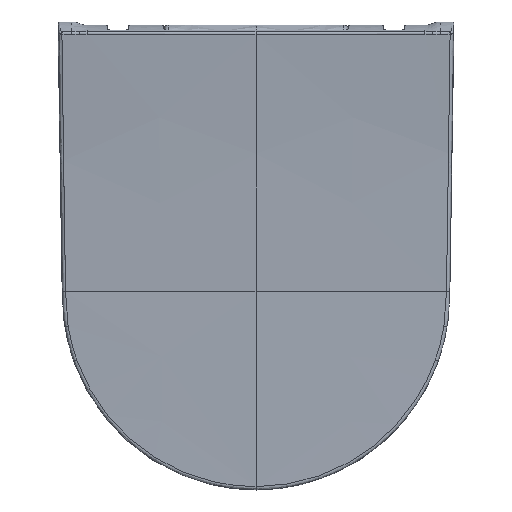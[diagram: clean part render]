
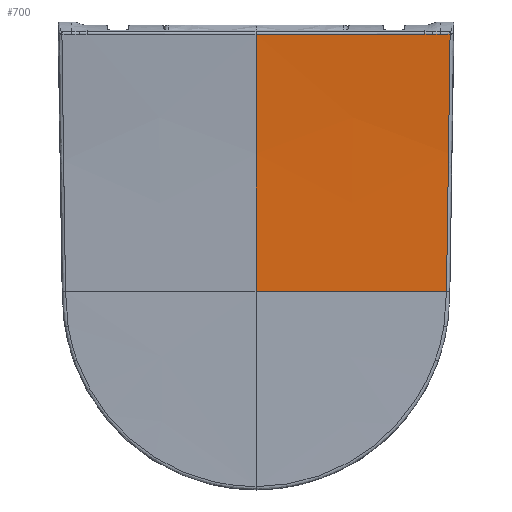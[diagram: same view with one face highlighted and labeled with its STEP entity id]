
A CAD part, top view. The second image highlights one B-rep face of the part: STEP entity #700.
In plain terms, the highlighted free-form (B-spline) face has degree [3, 2] with [4, 3] control points.
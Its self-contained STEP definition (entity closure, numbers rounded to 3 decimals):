
#700=ADVANCED_FACE('',(#1363),#10756,.T.);
#1363=FACE_OUTER_BOUND('',#2029,.T.);
#2029=EDGE_LOOP('',(#5251,#5252,#5253,#5254,#5255,#5256,#5257));
#5251=ORIENTED_EDGE('',*,*,#7148,.T.);
#5252=ORIENTED_EDGE('',*,*,#7170,.T.);
#5253=ORIENTED_EDGE('',*,*,#7141,.T.);
#5254=ORIENTED_EDGE('',*,*,#7143,.T.);
#5255=ORIENTED_EDGE('',*,*,#7145,.T.);
#5256=ORIENTED_EDGE('',*,*,#7151,.T.);
#5257=ORIENTED_EDGE('',*,*,#7169,.F.);
#7141=EDGE_CURVE('',#10059,#10082,#9016,.T.);
#7143=EDGE_CURVE('',#10082,#10083,#9018,.T.);
#7145=EDGE_CURVE('',#10083,#10084,#9020,.T.);
#7148=EDGE_CURVE('',#10085,#10058,#9023,.T.);
#7151=EDGE_CURVE('',#10084,#10087,#9026,.T.);
#7169=EDGE_CURVE('',#10085,#10087,#9044,.T.);
#7170=EDGE_CURVE('',#10058,#10059,#9045,.T.);
#9016=B_SPLINE_CURVE_WITH_KNOTS('',3,(#60881,#60882,#60883,#60884),
 .UNSPECIFIED.,.F.,.F.,(4,4),(0.,1.),.UNSPECIFIED.);
#9018=B_SPLINE_CURVE_WITH_KNOTS('',3,(#60891,#60892,#60893,#60894,#60895,
#60896,#60897,#60898,#60899,#60900),.UNSPECIFIED.,.F.,.F.,(4,2,2,2,4),(0.,
0.25,0.5,0.75,1.),.UNSPECIFIED.);
#9020=B_SPLINE_CURVE_WITH_KNOTS('',3,(#60907,#60908,#60909,#60910,#60911,
#60912),.UNSPECIFIED.,.F.,.F.,(4,2,4),(0.,0.5,1.),
 .UNSPECIFIED.);
#9023=B_SPLINE_CURVE_WITH_KNOTS('',2,(#60923,#60924,#60925),
 .UNSPECIFIED.,.F.,.F.,(3,3),(0.,0.985),.UNSPECIFIED.);
#9026=B_SPLINE_CURVE_WITH_KNOTS('',2,(#60976,#60977,#60978),
 .UNSPECIFIED.,.F.,.F.,(3,3),(0.,1.),.UNSPECIFIED.);
#9044=B_SPLINE_CURVE_WITH_KNOTS('',3,(#61230,#61231,#61232,#61233),
 .UNSPECIFIED.,.F.,.F.,(4,4),(-1.057,-0.055),
 .UNSPECIFIED.);
#9045=B_SPLINE_CURVE_WITH_KNOTS('',3,(#61234,#61235,#61236,#61237,#61238,
#61239),.UNSPECIFIED.,.F.,.F.,(4,2,4),(0.,0.5,1.),
 .UNSPECIFIED.);
#10058=VERTEX_POINT('',#51307);
#10059=VERTEX_POINT('',#51308);
#10082=VERTEX_POINT('',#51331);
#10083=VERTEX_POINT('',#51332);
#10084=VERTEX_POINT('',#51333);
#10085=VERTEX_POINT('',#51334);
#10087=VERTEX_POINT('',#51336);
#10756=B_SPLINE_SURFACE_WITH_KNOTS('',3,2,((#50758,#50759,#50760),(#50761,
#50762,#50763),(#50764,#50765,#50766),(#50767,#50768,#50769)),
 .UNSPECIFIED.,.F.,.F.,.F.,(4,4),(3,3),(0.,256.691),(0.,
185.951),.UNSPECIFIED.);
#50758=CARTESIAN_POINT('',(0.,222.167,25.073));
#50759=CARTESIAN_POINT('',(94.24,222.167,25.073));
#50760=CARTESIAN_POINT('',(185.95,222.426,25.122));
#50761=CARTESIAN_POINT('',(0.,141.313,16.167));
#50762=CARTESIAN_POINT('',(93.189,141.313,16.167));
#50763=CARTESIAN_POINT('',(184.904,139.875,14.104));
#50764=CARTESIAN_POINT('',(0.,56.17,10.908));
#50765=CARTESIAN_POINT('',(91.988,56.17,10.908));
#50766=CARTESIAN_POINT('',(183.685,54.643,8.538));
#50767=CARTESIAN_POINT('',(0.,-33.272,7.519));
#50768=CARTESIAN_POINT('',(90.654,-33.272,7.519));
#50769=CARTESIAN_POINT('',(182.355,-33.272,5.439));
#51307=CARTESIAN_POINT('',(179.583,-33.272,5.501));
#51308=CARTESIAN_POINT('',(182.987,209.494,23.451));
#51331=CARTESIAN_POINT('',(173.863,209.469,23.474));
#51332=CARTESIAN_POINT('',(166.557,209.467,23.493));
#51333=CARTESIAN_POINT('',(159.249,209.476,23.513));
#51334=CARTESIAN_POINT('',(0.,-33.272,7.519));
#51336=CARTESIAN_POINT('',(0.,209.453,23.706));
#60881=CARTESIAN_POINT('',(182.987,209.494,23.451));
#60882=CARTESIAN_POINT('',(179.948,209.486,23.459));
#60883=CARTESIAN_POINT('',(176.907,209.477,23.466));
#60884=CARTESIAN_POINT('',(173.863,209.469,23.474));
#60891=CARTESIAN_POINT('',(173.863,209.469,23.474));
#60892=CARTESIAN_POINT('',(173.255,209.467,23.475));
#60893=CARTESIAN_POINT('',(172.646,209.466,23.476));
#60894=CARTESIAN_POINT('',(171.429,209.463,23.479));
#60895=CARTESIAN_POINT('',(170.82,209.462,23.481));
#60896=CARTESIAN_POINT('',(169.602,209.462,23.484));
#60897=CARTESIAN_POINT('',(168.993,209.463,23.486));
#60898=CARTESIAN_POINT('',(167.775,209.464,23.489));
#60899=CARTESIAN_POINT('',(167.166,209.465,23.491));
#60900=CARTESIAN_POINT('',(166.557,209.467,23.493));
#60907=CARTESIAN_POINT('',(166.557,209.467,23.493));
#60908=CARTESIAN_POINT('',(165.339,209.469,23.496));
#60909=CARTESIAN_POINT('',(164.122,209.472,23.5));
#60910=CARTESIAN_POINT('',(161.686,209.475,23.506));
#60911=CARTESIAN_POINT('',(160.467,209.476,23.509));
#60912=CARTESIAN_POINT('',(159.249,209.476,23.513));
#60923=CARTESIAN_POINT('',(0.,-33.272,7.519));
#60924=CARTESIAN_POINT('',(89.283,-33.272,7.519));
#60925=CARTESIAN_POINT('',(179.583,-33.272,5.501));
#60976=CARTESIAN_POINT('',(159.249,209.476,23.513));
#60977=CARTESIAN_POINT('',(79.624,209.453,23.707));
#60978=CARTESIAN_POINT('',(0.,209.453,23.706));
#61230=CARTESIAN_POINT('',(0.,-33.272,7.519));
#61231=CARTESIAN_POINT('',(0.,51.494,10.73));
#61232=CARTESIAN_POINT('',(0.,132.4,15.622));
#61233=CARTESIAN_POINT('',(0.,209.453,23.706));
#61234=CARTESIAN_POINT('',(179.583,-33.272,5.501));
#61235=CARTESIAN_POINT('',(180.215,8.416,6.974));
#61236=CARTESIAN_POINT('',(180.82,49.49,8.997));
#61237=CARTESIAN_POINT('',(181.96,130.412,14.771));
#61238=CARTESIAN_POINT('',(182.495,170.26,18.523));
#61239=CARTESIAN_POINT('',(182.987,209.494,23.451));
